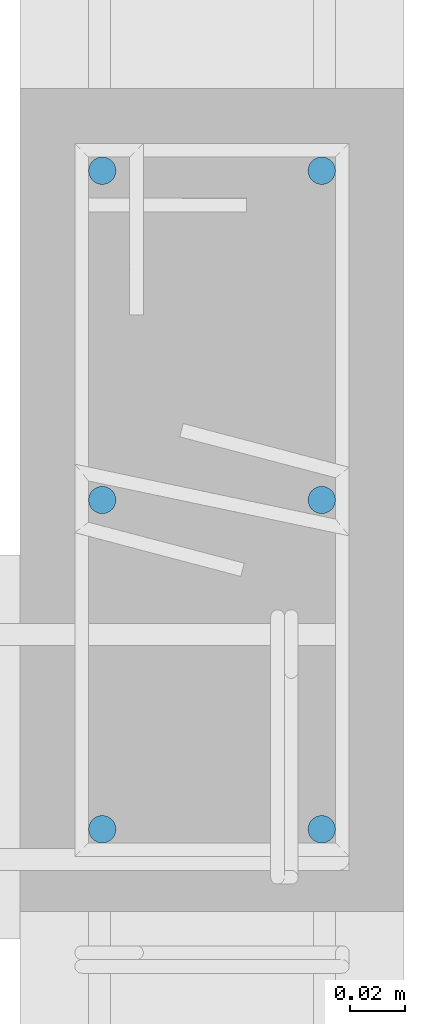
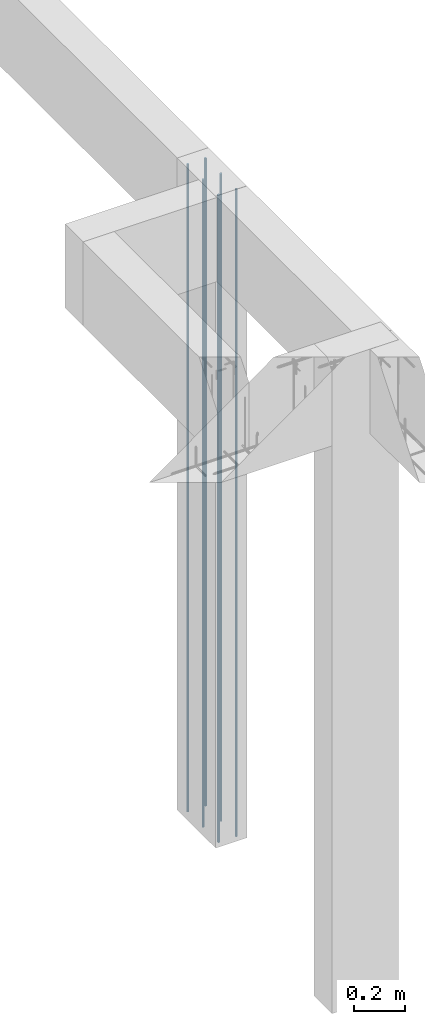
# One storey, part 31 of 236: 6 reinforcing bars.
"""IFC4 building model written with IfcOpenShell, lengths in centimetres."""

from ifc_helpers import new_model, entity, si_unit, derived_unit, frame, origin_with_axes, place, context, project, spatial, element, save


model = new_model("IFC4")

# Units and contexts
model_context = context("Model", 3, precision=1e-05, world=origin_with_axes(), identifier="Body")
ifc_project = project(units=[si_unit("LENGTHUNIT", "METRE", prefix="CENTI"), si_unit("VOLUMEUNIT", "CUBIC_METRE"), si_unit("AREAUNIT", "SQUARE_METRE"), si_unit("POWERUNIT", "WATT"), si_unit("LUMINOUSFLUXUNIT", "LUMEN"), si_unit("ELECTRICCURRENTUNIT", "AMPERE"), si_unit("PRESSUREUNIT", "PASCAL", prefix="KILO"), si_unit("MASSUNIT", "GRAM", prefix="KILO"), si_unit("PLANEANGLEUNIT", "RADIAN"), derived_unit("VOLUMETRICFLOWRATEUNIT", [(si_unit("LENGTHUNIT", "METRE"), 3), (si_unit("TIMEUNIT", "SECOND"), -1)])], contexts=[model_context])

# Site, building, storey
site_placement = place(None, frame((-4000.0, 0.0, 0.0), z_axis=(0.0, 0.0, 1.0), x_axis=(1.0, 0.0, 0.0)))
site = spatial("IfcSite", under=ifc_project, at=site_placement, Name="PADRÃO")
building_placement = place(site_placement, frame((0.0, 0.0, -14.0)))
building = spatial("IfcBuilding", under=site, at=building_placement, Name="CRECHE PRÉ-ESCOLA TIPO 2")
placement_1 = place(building_placement, origin_with_axes())
placement_2 = place(placement_1, frame((0.0, 0.0, 30.0), z_axis=(0.0, 0.0, 1.0), x_axis=(1.0, 0.0, 0.0)))
storey_placement = place(placement_2, frame((0.0, 0.0, 310.0), z_axis=(0.0, 0.0, 1.0), x_axis=(1.0, 0.0, 0.0)))
storey = spatial("IfcBuildingStorey", under=building, at=storey_placement, Name="TERREO", CompositionType="ELEMENT", Elevation=326.0)

# Reinforcing bars
for number, where, z_axis, x_axis, name in (
    (1, (1122.72, 1430.5, -2.0), (0.0, 0.0, 1.0), (1.0, 0.0, 0.0), "P102 - Longitudinal"),
    (2, (1114.72, 1418.5, -2.0), (0.0, 0.0, 1.0), (1.0, 0.0, 0.0), "P102 - Longitudinal"),
    (3, (1114.72, 1430.5, -2.0), (0.0, 0.0, 1.0), (1.0, 0.0, 0.0), "P102 - Longitudinal"),
    (4, (1122.72, 1442.5, -2.0), (0.0, 0.0, 1.0), (1.0, 0.0, 0.0), "P102 - Longitudinal"),
    (5, (1122.72, 1418.5, -2.0), (0.0, 0.0, 1.0), (1.0, 0.0, 0.0), "P102 - Longitudinal"),
    (6, (1114.72, 1442.5, -2.0), (0.0, 0.0, 1.0), (1.0, 0.0, 0.0), "P102 - Longitudinal"),
):
    element("IfcReinforcingBar", number, at=place(storey_placement, frame(where, z_axis=z_axis, x_axis=x_axis)), inside=storey, Name=name, BarLength=0.0, CrossSectionArea=7.853981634e-05, NominalDiameter=1.0, PredefinedType="MAIN", context=model_context, shape_type="AdvancedSweptSolid", body=[
        entity("IfcSweptDiskSolid", entity("IfcCompositeCurve", [entity("IfcCompositeCurveSegment", "CONTINUOUS", True, entity("IfcPolyline", [entity("IfcCartesianPoint", [0.0, 0.0, -308.0]), entity("IfcCartesianPoint", [0.0, 0.0, 0.0])]))], False), 0.5),
    ])

save(model, "model.ifc")
